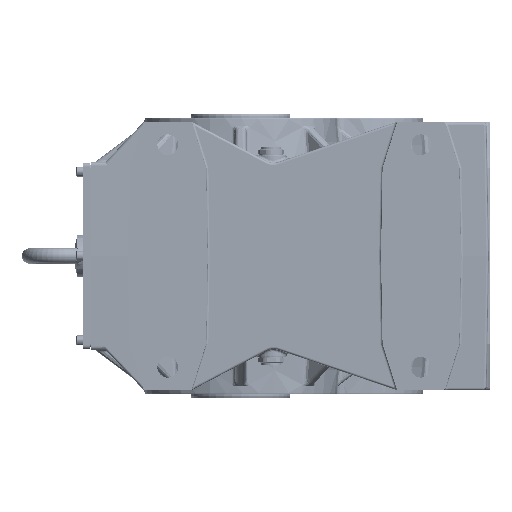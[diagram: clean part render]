
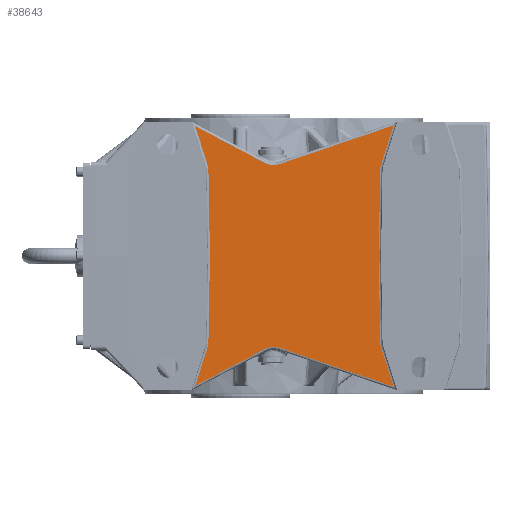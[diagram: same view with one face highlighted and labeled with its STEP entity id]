
A CAD part, left-side view. The second image highlights one B-rep face of the part: STEP entity #38643.
In plain terms, the highlighted planar face has unit normal (-1, 0, 0).
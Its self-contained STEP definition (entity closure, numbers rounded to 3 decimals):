
#36708=CARTESIAN_POINT('',(-225.0,58.933,-168.937));
#36709=VERTEX_POINT('',#36708);
#36717=CARTESIAN_POINT('',(-225.0,42.008,-115.489));
#36718=VERTEX_POINT('',#36717);
#36719=CARTESIAN_POINT('',(-225.,58.933,-168.937));
#36720=DIRECTION('',(0.,-0.302,0.953));
#36721=VECTOR('',#36720,56.064);
#36722=LINE('',#36719,#36721);
#36723=EDGE_CURVE('',#36709,#36718,#36722,.T.);
#37012=CARTESIAN_POINT('',(-225.0,42.008,115.489));
#37013=VERTEX_POINT('',#37012);
#37021=CARTESIAN_POINT('',(-225.0,58.933,168.937));
#37022=VERTEX_POINT('',#37021);
#37023=CARTESIAN_POINT('',(-225.0,42.008,115.489));
#37024=DIRECTION('',(0.,0.302,0.953));
#37025=VECTOR('',#37024,56.064);
#37026=LINE('',#37023,#37025);
#37027=EDGE_CURVE('',#37013,#37022,#37026,.T.);
#38324=CARTESIAN_POINT('',(-225.,-50.27,-119.497));
#38325=VERTEX_POINT('',#38324);
#38334=CARTESIAN_POINT('',(-225.,-199.348,-170.247));
#38335=VERTEX_POINT('',#38334);
#38343=CARTESIAN_POINT('',(-225.,-199.348,-170.247));
#38344=DIRECTION('',(0.,0.947,0.322));
#38345=VECTOR('',#38344,157.48);
#38346=LINE('',#38343,#38345);
#38347=EDGE_CURVE('',#38335,#38325,#38346,.T.);
#38357=CARTESIAN_POINT('',(-225.,-32.131,-120.924));
#38358=VERTEX_POINT('',#38357);
#38368=CARTESIAN_POINT('',(-225.,-42.858,-141.27));
#38369=DIRECTION('',(-1.0,0.,0.));
#38370=DIRECTION('',(0.,0.078,0.997));
#38371=AXIS2_PLACEMENT_3D('',#38368,#38369,#38370);
#38372=CIRCLE('',#38371,23.);
#38373=EDGE_CURVE('',#38325,#38358,#38372,.T.);
#38428=CARTESIAN_POINT('',(-225.,-32.131,-120.924));
#38429=DIRECTION('',(0.,0.885,-0.466));
#38430=VECTOR('',#38429,102.946);
#38431=LINE('',#38428,#38430);
#38432=EDGE_CURVE('',#38358,#36709,#38431,.T.);
#38550=CARTESIAN_POINT('',(-225.,-182.008,-115.489));
#38551=VERTEX_POINT('',#38550);
#38559=CARTESIAN_POINT('',(-225.,-182.008,-115.489));
#38560=DIRECTION('',(0.0,-0.302,-0.953));
#38561=VECTOR('',#38560,57.438);
#38562=LINE('',#38559,#38561);
#38563=EDGE_CURVE('',#38551,#38335,#38562,.T.);
#38569=CARTESIAN_POINT('',(-225.,-320.,0.0));
#38570=DIRECTION('',(-1.0,0.0,0.0));
#38571=DIRECTION('',(0.0,0.0,1.0));
#38572=AXIS2_PLACEMENT_3D('',#38569,#38570,#38571);
#38573=PLANE('',#38572);
#38574=ORIENTED_EDGE('',*,*,#38347,.F.);
#38575=ORIENTED_EDGE('',*,*,#38563,.F.);
#38576=CARTESIAN_POINT('',(-225.,-179.992,0.));
#38577=VERTEX_POINT('',#38576);
#38578=CARTESIAN_POINT('',(-225.,-179.992,0.));
#38579=DIRECTION('',(0.0,-0.017,-1.));
#38580=VECTOR('',#38579,115.507);
#38581=LINE('',#38578,#38580);
#38582=EDGE_CURVE('',#38577,#38551,#38581,.T.);
#38583=ORIENTED_EDGE('',*,*,#38582,.F.);
#38584=CARTESIAN_POINT('',(-225.,-182.008,115.489));
#38585=VERTEX_POINT('',#38584);
#38586=CARTESIAN_POINT('',(-225.,-182.008,115.489));
#38587=DIRECTION('',(0.0,0.017,-1.));
#38588=VECTOR('',#38587,115.507);
#38589=LINE('',#38586,#38588);
#38590=EDGE_CURVE('',#38585,#38577,#38589,.T.);
#38591=ORIENTED_EDGE('',*,*,#38590,.F.);
#38592=CARTESIAN_POINT('',(-225.,-199.348,170.247));
#38593=VERTEX_POINT('',#38592);
#38594=CARTESIAN_POINT('',(-225.,-199.348,170.247));
#38595=DIRECTION('',(0.0,0.302,-0.953));
#38596=VECTOR('',#38595,57.438);
#38597=LINE('',#38594,#38596);
#38598=EDGE_CURVE('',#38593,#38585,#38597,.T.);
#38599=ORIENTED_EDGE('',*,*,#38598,.F.);
#38600=CARTESIAN_POINT('',(-225.,-50.27,119.497));
#38601=VERTEX_POINT('',#38600);
#38602=CARTESIAN_POINT('',(-225.,-50.27,119.497));
#38603=DIRECTION('',(0.,-0.947,0.322));
#38604=VECTOR('',#38603,157.48);
#38605=LINE('',#38602,#38604);
#38606=EDGE_CURVE('',#38601,#38593,#38605,.T.);
#38607=ORIENTED_EDGE('',*,*,#38606,.F.);
#38608=CARTESIAN_POINT('',(-225.,-32.131,120.924));
#38609=VERTEX_POINT('',#38608);
#38610=CARTESIAN_POINT('',(-225.,-42.858,141.27));
#38611=DIRECTION('',(-1.0,0.,0.));
#38612=DIRECTION('',(0.,0.078,-0.997));
#38613=AXIS2_PLACEMENT_3D('',#38610,#38611,#38612);
#38614=CIRCLE('',#38613,23.);
#38615=EDGE_CURVE('',#38609,#38601,#38614,.T.);
#38616=ORIENTED_EDGE('',*,*,#38615,.F.);
#38617=CARTESIAN_POINT('',(-225.,58.933,168.937));
#38618=DIRECTION('',(0.,-0.885,-0.466));
#38619=VECTOR('',#38618,102.946);
#38620=LINE('',#38617,#38619);
#38621=EDGE_CURVE('',#37022,#38609,#38620,.T.);
#38622=ORIENTED_EDGE('',*,*,#38621,.F.);
#38623=ORIENTED_EDGE('',*,*,#37027,.F.);
#38624=CARTESIAN_POINT('',(-225.0,39.992,0.));
#38625=VERTEX_POINT('',#38624);
#38626=CARTESIAN_POINT('',(-225.0,39.992,0.));
#38627=DIRECTION('',(0.0,0.017,1.));
#38628=VECTOR('',#38627,115.507);
#38629=LINE('',#38626,#38628);
#38630=EDGE_CURVE('',#38625,#37013,#38629,.T.);
#38631=ORIENTED_EDGE('',*,*,#38630,.F.);
#38632=CARTESIAN_POINT('',(-225.0,42.008,-115.489));
#38633=DIRECTION('',(0.0,-0.017,1.));
#38634=VECTOR('',#38633,115.507);
#38635=LINE('',#38632,#38634);
#38636=EDGE_CURVE('',#36718,#38625,#38635,.T.);
#38637=ORIENTED_EDGE('',*,*,#38636,.F.);
#38638=ORIENTED_EDGE('',*,*,#36723,.F.);
#38639=ORIENTED_EDGE('',*,*,#38432,.F.);
#38640=ORIENTED_EDGE('',*,*,#38373,.F.);
#38641=EDGE_LOOP('',(#38574,#38575,#38583,#38591,#38599,#38607,#38616,#38622,#38623,#38631,#38637,#38638,#38639,#38640));
#38642=FACE_OUTER_BOUND('',#38641,.T.);
#38643=ADVANCED_FACE('',(#38642),#38573,.T.);
